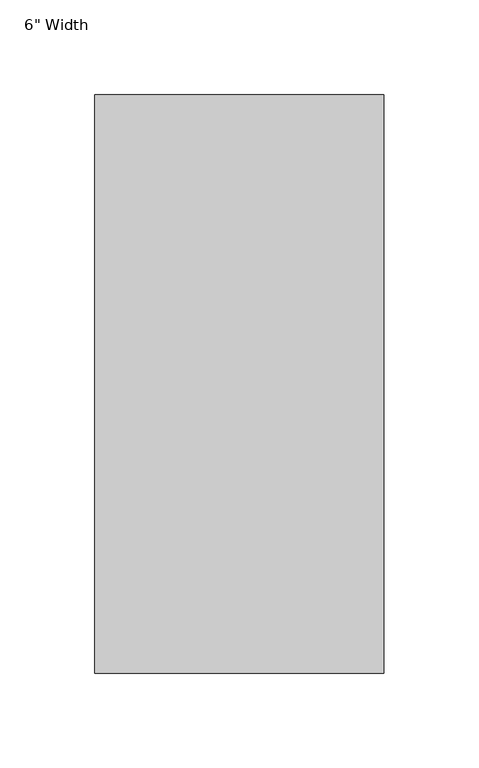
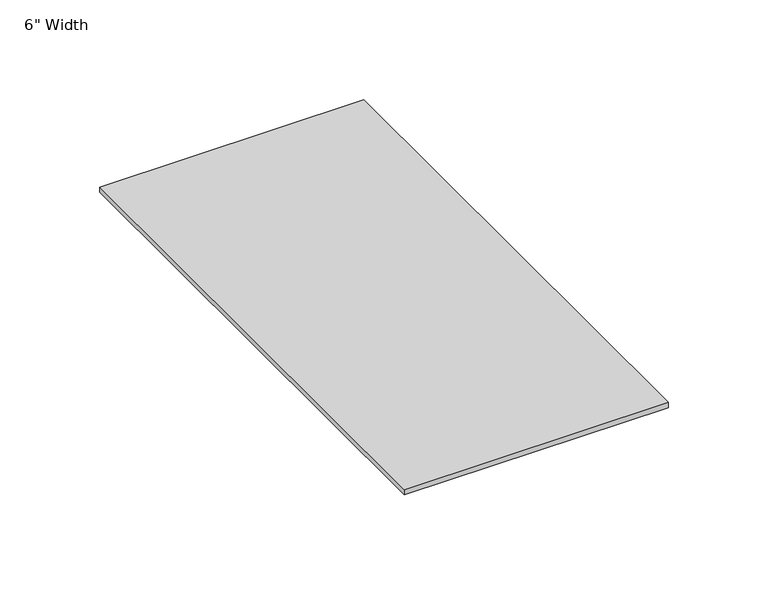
"""IFC4 building model written with IfcOpenShell, lengths in millimetres: proxy geometry."""

from ifc_helpers import new_model, si_unit, origin, origin_with_axes, place, context, project, spatial, polyline, outline, extrude, source, transform, mapped, element, save


def proxy_b5122c49(model_context):
    return source(origin(), model_context, "Body", "SweptSolid", [
        extrude(outline(polyline([(76.2, 152.4), (76.2, -152.4), (-76.2, -152.4), (-76.2, 152.4), (76.2, 152.4)])), origin_with_axes(), (0.0, 0.0, 1.0), 3.175),
    ])


if __name__ == "__main__":
    model = new_model("IFC4")
    model_context = context("Model", 3, world=origin())
    ifc_project = project(units=[si_unit("LENGTHUNIT", "METRE", prefix="MILLI")], contexts=[model_context])
    site = spatial("IfcSite", under=ifc_project)
    building = spatial("IfcBuilding", under=site)
    placement = place(None, origin())
    proxy_shape = proxy_b5122c49(model_context)
    element("IfcBuildingElementProxy", 1, Name="Cover_Plate-Wallduct-Wiremold : 6\" Width", ObjectType="Cover_Plate-Wallduct-Wiremold : 6\" Width", at=placement, inside=building, context=model_context, shape_type="MappedRepresentation", body=[
        mapped(proxy_shape, transform((0.0, 0.0, 0.0), x_axis=(1.0, 0.0, 0.0), y_axis=(0.0, 1.0, 0.0), z_axis=(0.0, 0.0, 1.0))),
    ])
    save(model, "model.ifc")
